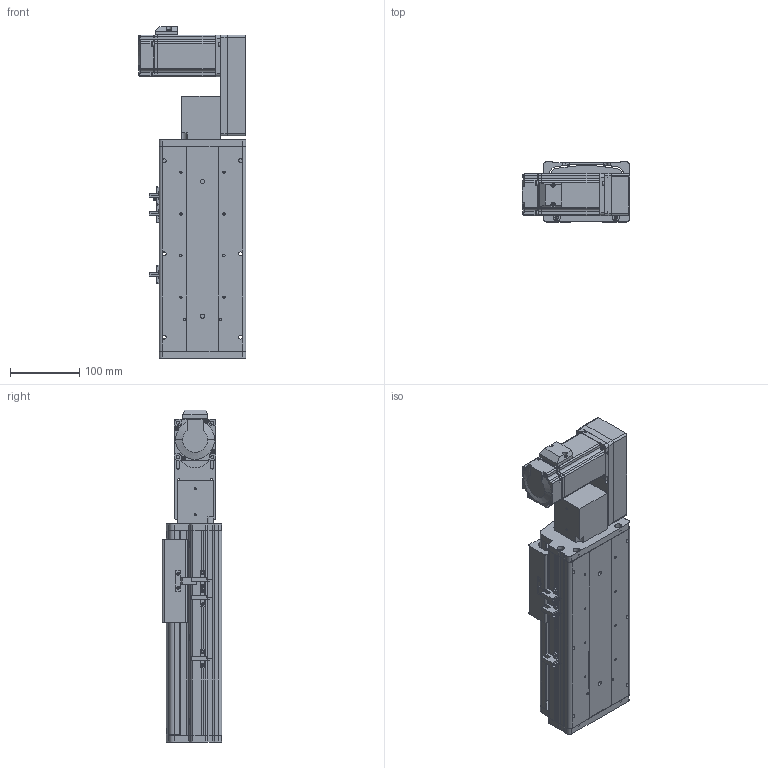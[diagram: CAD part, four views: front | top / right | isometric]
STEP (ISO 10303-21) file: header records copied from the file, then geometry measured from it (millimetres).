
FILE_DESCRIPTION (( 'STEP AP214' ), '1' );
FILE_NAME ('KSD125B-S100-MLB-CM.STEP', '2017-10-21T01:29:02', ( '微软用户' ), ( '微软中国' ), 'SwSTEP 2.0', 'SolidWorks 2014', '' );
FILE_SCHEMA (( 'AUTOMOTIVE_DESIGN' ));
Length unit declared in the file: millimetre
Products named in the file (18): 悵誘欶奻狟殏; HTPA30S3M150_A_H6_a佪裝蚚; HTPA30S3M150_A_H6_a萇儂蚚; 100宽马达安装板连板上下折丝杆同步带; 100宽马达安装板同步带左; KSD125模组100行程同步带-防尘盖; EGH15CA导轨125宽模组同步带100行程; 125模组100行程同步带-底板; MHMD042G1CA_2_03; KSD125模组同步带-防撞垫2; 覜茼え68遵圉猾敕; U倰嫖萇假蚾璃; U倰嫖萇EEㄜSX672; KSD125模组同步带-防撞垫1; 前端板-125宽模组同步带; 125模组同步带-尾端板1; KSD125模组同步带-滑动座1; KSD125B-S100-MLB-CM
Assembly tree (21 placements, depth 2):
  KSD125B-S100-MLB-CM
    KSD125模组同步带-滑动座1
    125模组同步带-尾端板1
    前端板-125宽模组同步带
    KSD125模组同步带-防撞垫1
    U倰嫖萇EEㄜSX672  x3
    U倰嫖萇假蚾璃  x3
    覜茼え68遵圉猾敕
    KSD125模组同步带-防撞垫2
    MHMD042G1CA_2_03
    125模组100行程同步带-底板
    EGH15CA导轨125宽模组同步带100行程
    KSD125模组100行程同步带-防尘盖
    100宽马达安装板同步带左
    100宽马达安装板连板上下折丝杆同步带
    HTPA30S3M150_A_H6_a萇儂蚚
    HTPA30S3M150_A_H6_a佪裝蚚
    悵誘欶奻狟殏
Bounding box: 155 x 86 x 478 mm (x, y, z)
Volume: 1620713.8 mm3; surface area: 594360.6 mm2
Topology: 22 solids, 25 shells, 2379 faces, 6861 edges, 4522 vertices
Faces by surface type: cylinder 1374, plane 860, cone 121, bspline 24
Entity records: 85535 total; most frequent: CARTESIAN_POINT 16646, DIRECTION 12970, ORIENTED_EDGE 12210, EDGE_CURVE 6183, AXIS2_PLACEMENT_3D 4888, VERTEX_POINT 4114, VECTOR 3194, LINE 3194
